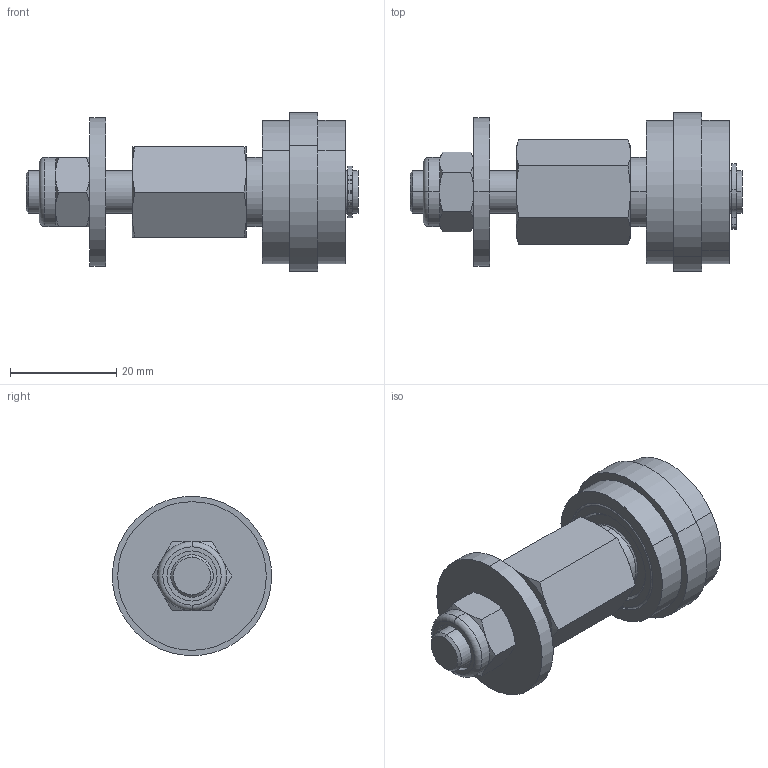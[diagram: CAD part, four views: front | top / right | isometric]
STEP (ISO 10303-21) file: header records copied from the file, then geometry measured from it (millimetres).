
FILE_DESCRIPTION (( 'STEP AP203' ), '1' );
FILE_NAME ('084.810.005.STEP', '2013-01-29T13:22:44', ( 'Alusic' ), ( 'Alusic' ), 'SwSTEP 2.0', 'SolidWorks 2011', '' );
FILE_SCHEMA (( 'CONFIG_CONTROL_DESIGN' ));
Length unit declared in the file: millimetre
Products named in the file (7): CUSCINETTI A SFERE_608-2RS; 084.810.005; Torque nut 01_ALUSIC_ISO 7040-M8-S; Plain Washer XLarge Grade C_ALUSIC_Washer ISO 7094 - 8; Circlip for Shafts normal_din_Circlip DIN 471 - 8 x 0.8; 084.810.004; 084.810.007
Assembly tree (7 placements, depth 2):
  084.810.005
    084.810.004
    Plain Washer XLarge Grade C_ALUSIC_Washer ISO 7094 - 8
    Circlip for Shafts normal_din_Circlip DIN 471 - 8 x 0.8
    CUSCINETTI A SFERE_608-2RS  x2
    Torque nut 01_ALUSIC_ISO 7040-M8-S
    084.810.007
Bounding box: 62.5 x 29.92 x 29.92 mm (x, y, z)
Volume: 18458.4 mm3; surface area: 11173.8 mm2
Topology: 7 solids, 7 shells, 211 faces, 449 edges, 270 vertices
Faces by surface type: cone 70, cylinder 69, plane 54, torus 18
Entity records: 5944 total; most frequent: CARTESIAN_POINT 1086, DIRECTION 943, ORIENTED_EDGE 794, AXIS2_PLACEMENT_3D 399, EDGE_CURVE 397, VERTEX_POINT 238, EDGE_LOOP 207, CIRCLE 204
